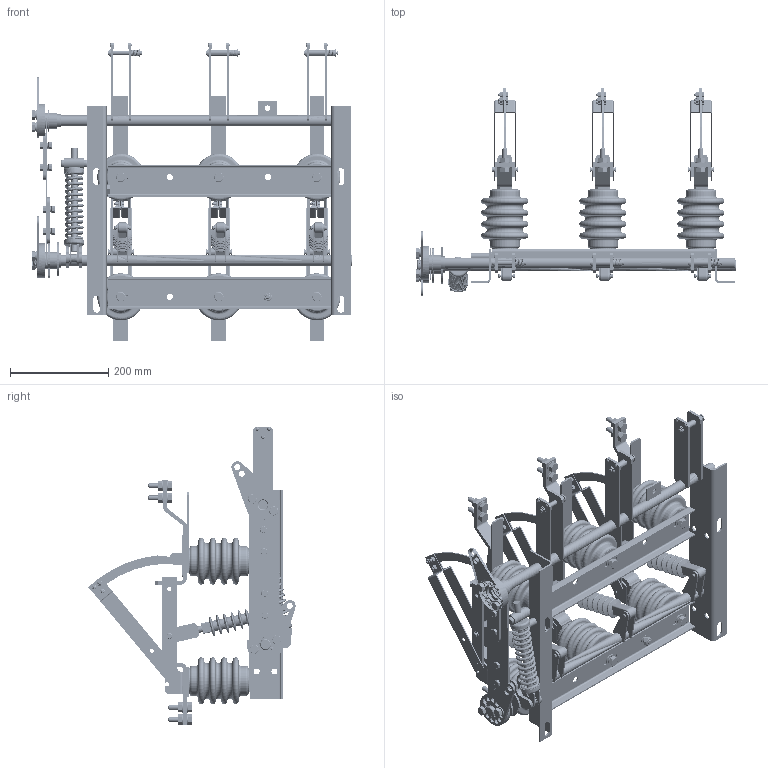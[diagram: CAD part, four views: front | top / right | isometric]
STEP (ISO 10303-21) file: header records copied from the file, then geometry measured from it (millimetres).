
FILE_DESCRIPTION (( 'STEP AP214' ), '1' );
FILE_NAME ('Âûêëþ÷àòåëü íàãðóçêè ÂÍÀ-10630-Ï-Iç-È2-ÓÕË2-ÊÝÀÇ.STEP', '2023-02-01T07:58:41', ( '' ), ( '' ), 'SwSTEP 2.0', 'SolidWorks 2018', '' );
FILE_SCHEMA (( 'AUTOMOTIVE_DESIGN' ));
Length unit declared in the file: millimetre
Products named in the file (1): Âûêëþ÷àòåëü íàãðóçêè ÂÍÀ-10630-Ï-Iç-È2-ÓÕË2-ÊÝÀÇ
Bounding box: 654.4 x 423.02 x 609.57 mm (x, y, z)
Volume: 6651944.7 mm3; surface area: 1502633.4 mm2
Topology: 2 solids, 22 shells, 3510 faces, 8858 edges, 5606 vertices
Faces by surface type: plane 1917, cylinder 1005, cone 344, torus 195, bspline 37, sphere 12
Full cylindrical faces by diameter (mm): 4 x1, 5 x7, 6.716 x2, 7.094 x1, 7.525 x1, 8 x10, 8.1 x2, 8.375 x1, 8.5 x8, 9.465 x3, 9.64 x3, 10 x16, 10.14 x3, 10.3 x20, 10.5 x4, 11 x1, 11.845 x4, 12.2 x4, 12.303 x3, 12.35 x6, 13.324 x3, 13.726 x3, 13.785 x3, 15.432 x3, 16 x8, 16.139 x1, 16.2 x2, 16.649 x1, 17.332 x1, 20 x4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
Entity records: 182095 total; most frequent: CARTESIAN_POINT 64720, ORIENTED_EDGE 16984, DIRECTION 16902, EDGE_CURVE 8492, AXIS2_PLACEMENT_3D 6322, VERTEX_POINT 5481, LINE 4258, VECTOR 4258
